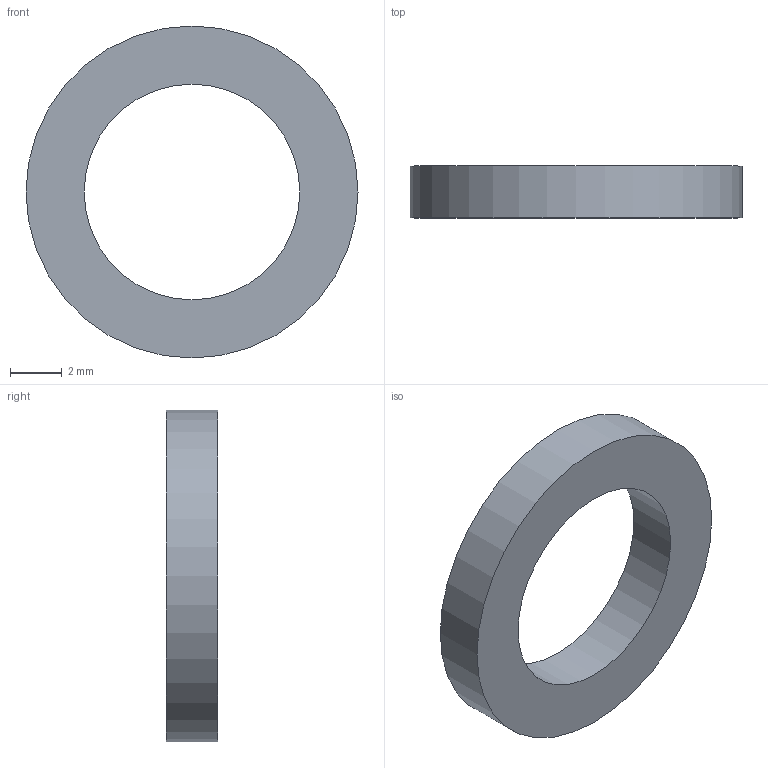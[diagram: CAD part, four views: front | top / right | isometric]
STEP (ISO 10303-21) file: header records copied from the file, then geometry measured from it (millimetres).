
FILE_DESCRIPTION(('Open CASCADE Model'),'2;1');
FILE_NAME('Open CASCADE Shape Model','2026-10-20T13:19:35',('Author'),( 'Open CASCADE'),'Open CASCADE STEP processor 7.9','Open CASCADE 7.9' ,'Unknown');
FILE_SCHEMA(('AUTOMOTIVE_DESIGN { 1 0 10303 214 1 1 1 1 }'));
Length unit declared in the file: millimetre
Products named in the file (1): Open CASCADE STEP translator 7.9 38
Bounding box: 12.8 x 2 x 12.8 mm (x, y, z)
Volume: 148.6 mm3; surface area: 281.3 mm2
Topology: 1 solids, 1 shells, 4 faces, 6 edges, 4 vertices
Faces by surface type: cylinder 2, plane 2
Full cylindrical faces by diameter (mm): 8.32 x1, 12.8 x1
Entity records: 186 total; most frequent: DIRECTION 32, CARTESIAN_POINT 27, ORIENTED_EDGE 12, PCURVE 12, DEFINITIONAL_REPRESENTATION 12, LINE 10, VECTOR 10, AXIS2_PLACEMENT_3D 9
